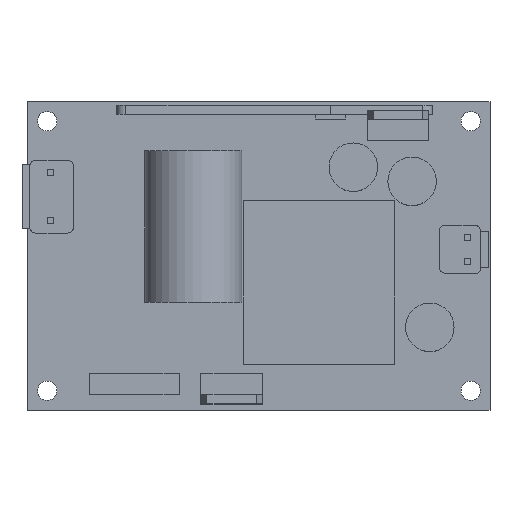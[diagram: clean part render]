
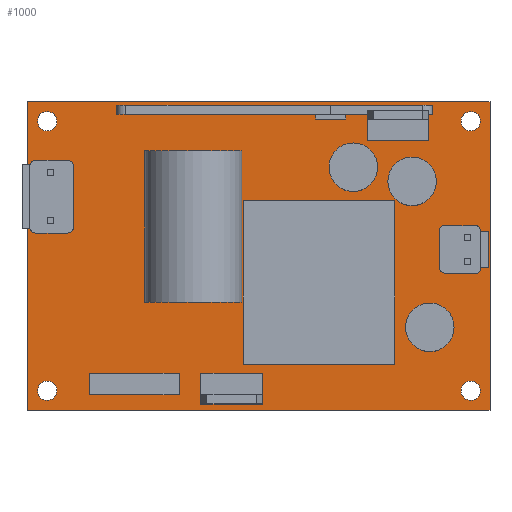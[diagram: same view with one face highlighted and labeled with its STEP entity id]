
A CAD part, top view. The second image highlights one B-rep face of the part: STEP entity #1000.
In plain terms, the highlighted planar face has unit normal (0, 0, 1).
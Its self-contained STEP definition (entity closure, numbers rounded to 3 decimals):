
#10=CARTESIAN_POINT('',(96.6,79.88,-0.411));
#20=DIRECTION('',(0.,0.,-1.));
#30=DIRECTION('',(-1.,0.,0.));
#40=AXIS2_PLACEMENT_3D('',#10,#20,#30);
#50=PLANE('',#40);
#60=CARTESIAN_POINT('',(134.7,125.8,-0.411));
#70=DIRECTION('',(0.,-1.,0.));
#80=VECTOR('',#70,1.);
#90=LINE('',#60,#80);
#100=CARTESIAN_POINT('',(134.7,125.8,-0.411));
#110=VERTEX_POINT('',#100);
#120=CARTESIAN_POINT('',(134.7,75.,-0.411));
#130=VERTEX_POINT('',#120);
#140=EDGE_CURVE('',#110,#130,#90,.T.);
#150=ORIENTED_EDGE('',*,*,#140,.F.);
#160=CARTESIAN_POINT('',(134.7,75.,-0.411));
#170=DIRECTION('',(-1.,0.,0.));
#180=VECTOR('',#170,1.);
#190=LINE('',#160,#180);
#200=CARTESIAN_POINT('',(58.5,75.,-0.411));
#210=VERTEX_POINT('',#200);
#220=EDGE_CURVE('',#130,#210,#190,.T.);
#230=ORIENTED_EDGE('',*,*,#220,.F.);
#240=CARTESIAN_POINT('',(58.5,75.,-0.411));
#250=DIRECTION('',(0.,1.,0.));
#260=VECTOR('',#250,1.);
#270=LINE('',#240,#260);
#280=CARTESIAN_POINT('',(58.5,125.8,-0.411));
#290=VERTEX_POINT('',#280);
#300=EDGE_CURVE('',#210,#290,#270,.T.);
#310=ORIENTED_EDGE('',*,*,#300,.F.);
#320=CARTESIAN_POINT('',(58.5,125.8,-0.411));
#330=DIRECTION('',(1.,0.,0.));
#340=VECTOR('',#330,1.);
#350=LINE('',#320,#340);
#360=EDGE_CURVE('',#290,#110,#350,.T.);
#370=ORIENTED_EDGE('',*,*,#360,.F.);
#380=EDGE_LOOP('',(#370,#310,#230,#150));
#390=FACE_OUTER_BOUND('',#380,.T.);
#400=CARTESIAN_POINT('',(131.525,78.175,-0.411));
#410=DIRECTION('',(0.,0.,1.));
#420=DIRECTION('',(1.,0.,0.));
#430=AXIS2_PLACEMENT_3D('',#400,#410,#420);
#440=CIRCLE('',#430,1.6);
#450=CARTESIAN_POINT('',(129.925,78.175,-0.411));
#460=VERTEX_POINT('',#450);
#470=CARTESIAN_POINT('',(133.125,78.175,-0.411));
#480=VERTEX_POINT('',#470);
#490=EDGE_CURVE('',#460,#480,#440,.T.);
#500=ORIENTED_EDGE('',*,*,#490,.F.);
#510=EDGE_CURVE('',#480,#460,#440,.T.);
#520=ORIENTED_EDGE('',*,*,#510,.F.);
#530=EDGE_LOOP('',(#520,#500));
#540=FACE_BOUND('',#530,.T.);
#550=CARTESIAN_POINT('',(61.675,122.625,-0.411));
#560=DIRECTION('',(0.,0.,1.));
#570=DIRECTION('',(1.,0.,0.));
#580=AXIS2_PLACEMENT_3D('',#550,#560,#570);
#590=CIRCLE('',#580,1.6);
#600=CARTESIAN_POINT('',(63.275,122.625,-0.411));
#610=VERTEX_POINT('',#600);
#620=CARTESIAN_POINT('',(60.075,122.625,-0.411));
#630=VERTEX_POINT('',#620);
#640=EDGE_CURVE('',#610,#630,#590,.T.);
#650=ORIENTED_EDGE('',*,*,#640,.F.);
#660=EDGE_CURVE('',#630,#610,#590,.T.);
#670=ORIENTED_EDGE('',*,*,#660,.F.);
#680=EDGE_LOOP('',(#670,#650));
#690=FACE_BOUND('',#680,.T.);
#700=CARTESIAN_POINT('',(61.675,78.175,-0.411));
#710=DIRECTION('',(0.,0.,1.));
#720=DIRECTION('',(1.,0.,0.));
#730=AXIS2_PLACEMENT_3D('',#700,#710,#720);
#740=CIRCLE('',#730,1.6);
#750=CARTESIAN_POINT('',(60.075,78.175,-0.411));
#760=VERTEX_POINT('',#750);
#770=CARTESIAN_POINT('',(63.275,78.175,-0.411));
#780=VERTEX_POINT('',#770);
#790=EDGE_CURVE('',#760,#780,#740,.T.);
#800=ORIENTED_EDGE('',*,*,#790,.F.);
#810=EDGE_CURVE('',#780,#760,#740,.T.);
#820=ORIENTED_EDGE('',*,*,#810,.F.);
#830=EDGE_LOOP('',(#820,#800));
#840=FACE_BOUND('',#830,.T.);
#850=CARTESIAN_POINT('',(131.525,122.625,-0.411));
#860=DIRECTION('',(0.,0.,1.));
#870=DIRECTION('',(1.,0.,0.));
#880=AXIS2_PLACEMENT_3D('',#850,#860,#870);
#890=CIRCLE('',#880,1.6);
#900=CARTESIAN_POINT('',(129.925,122.625,-0.411));
#910=VERTEX_POINT('',#900);
#920=CARTESIAN_POINT('',(133.125,122.625,-0.411));
#930=VERTEX_POINT('',#920);
#940=EDGE_CURVE('',#910,#930,#890,.T.);
#950=ORIENTED_EDGE('',*,*,#940,.F.);
#960=EDGE_CURVE('',#930,#910,#890,.T.);
#970=ORIENTED_EDGE('',*,*,#960,.F.);
#980=EDGE_LOOP('',(#970,#950));
#990=FACE_BOUND('',#980,.T.);
#1000=ADVANCED_FACE('',(#390,#540,#690,#840,#990),#50,.F.);
